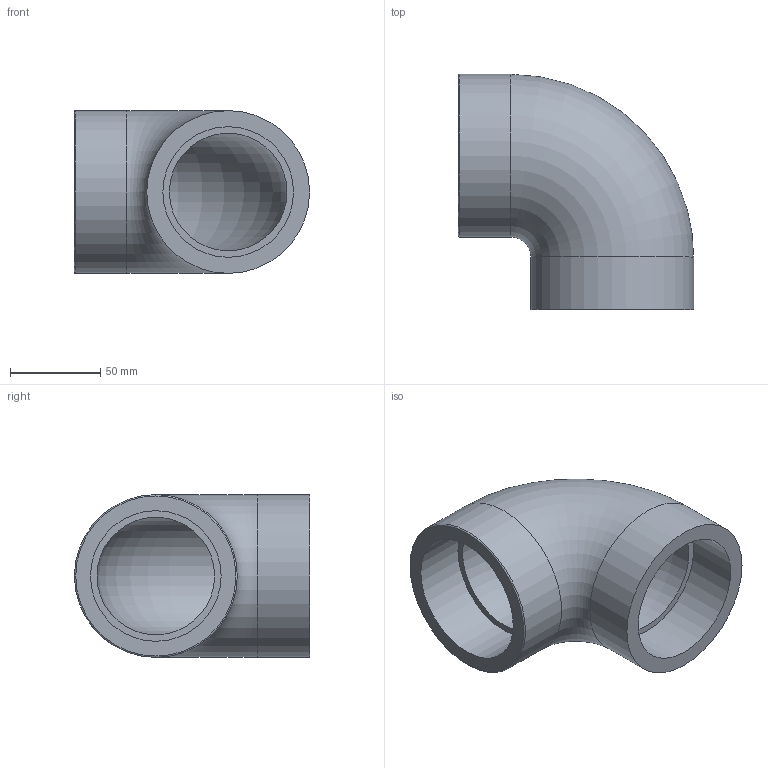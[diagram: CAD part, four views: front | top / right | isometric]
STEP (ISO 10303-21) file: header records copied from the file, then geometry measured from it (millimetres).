
FILE_DESCRIPTION(/* description */ ('PLASSON THREADED 90° ELBOW PVC 2.1/2"'),/* implementation_level */ '2;1');
FILE_NAME(/* name */ 'C:\Dropbox\KIMPROJECTS-Inventor\99-16-3568-Processing\PVC Catalog 2017\050501\050501025.ipt.stp',/* time_stamp */ '2017-12-07T15:55:54+02:00',/* author */ ('KIM'),/* organization */ (''),/* preprocessor_version */ 'ST-DEVELOPER v15.6',/* originating_system */ 'Autodesk Inventor 2015',/* authorisation */ '');
FILE_SCHEMA (('AUTOMOTIVE_DESIGN { 1 0 10303 214 3 1 1 }'));
Length unit declared in the file: millimetre
Products named in the file (1): 050501025
Bounding box: 130 x 130 x 90 mm (x, y, z)
Volume: 398999 mm3; surface area: 78392.9 mm2
Topology: 1 solids, 1 shells, 11 faces, 21 edges, 14 vertices
Faces by surface type: cylinder 4, plane 4, torus 3
Full cylindrical faces by diameter (mm): 72.226 x2, 90 x2
Entity records: 252 total; most frequent: DIRECTION 46, CARTESIAN_POINT 34, AXIS2_PLACEMENT_3D 23, EDGE_LOOP 22, ORIENTED_EDGE 22, FACE_BOUND 11, FACE_OUTER_BOUND 11, CIRCLE 11
